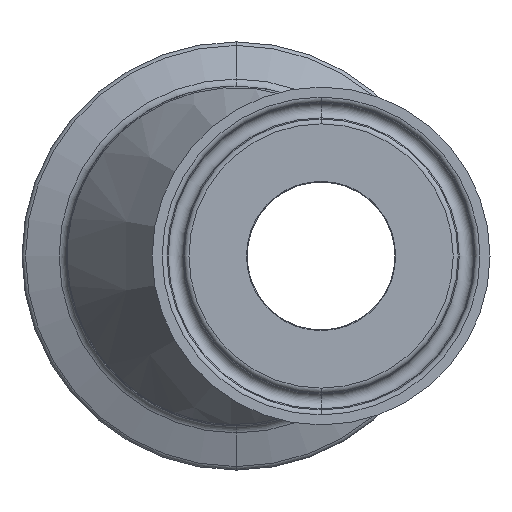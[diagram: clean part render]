
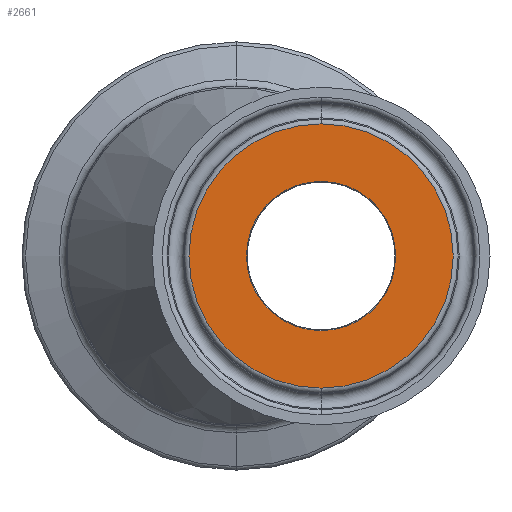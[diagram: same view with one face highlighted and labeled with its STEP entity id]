
A CAD part, left-side view. The second image highlights one B-rep face of the part: STEP entity #2661.
In plain terms, the highlighted planar face has unit normal (-1, 0, 0).
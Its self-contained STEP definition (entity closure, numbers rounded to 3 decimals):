
#75 = DIRECTION ( 'NONE',  ( -1., 0., 0. ) ) ;
#78 = DIRECTION ( 'NONE',  ( 0., 0., 1. ) ) ;
#114 = FACE_OUTER_BOUND ( 'NONE', #2436, .T. ) ;
#116 = DIRECTION ( 'NONE',  ( 0., 0., -1. ) ) ;
#219 = ORIENTED_EDGE ( 'NONE', *, *, #2246, .T. ) ;
#238 = EDGE_LOOP ( 'NONE', ( #1134, #1184 ) ) ;
#297 = CARTESIAN_POINT ( 'NONE',  ( 0., -12.701, 0. ) ) ;
#298 = AXIS2_PLACEMENT_3D ( 'NONE', #2574, #1316, #78 ) ;
#336 = EDGE_CURVE ( 'NONE', #1174, #2425, #392, .T. ) ;
#392 = CIRCLE ( 'NONE', #2019, 11.149 ) ;
#453 = CARTESIAN_POINT ( 'NONE',  ( 0., -12.701, -11.149 ) ) ;
#553 = EDGE_CURVE ( 'NONE', #2425, #1174, #1827, .T. ) ;
#739 = AXIS2_PLACEMENT_3D ( 'NONE', #1889, #2591, #2523 ) ;
#853 = VERTEX_POINT ( 'NONE', #1039 ) ;
#906 = DIRECTION ( 'NONE',  ( 1., 0., 0. ) ) ;
#1039 = CARTESIAN_POINT ( 'NONE',  ( 0., -12.701, -19.747 ) ) ;
#1105 = CARTESIAN_POINT ( 'NONE',  ( 0., -12.701, 19.747 ) ) ;
#1126 = AXIS2_PLACEMENT_3D ( 'NONE', #1313, #75, #1520 ) ;
#1134 = ORIENTED_EDGE ( 'NONE', *, *, #336, .T. ) ;
#1135 = AXIS2_PLACEMENT_3D ( 'NONE', #2622, #1352, #116 ) ;
#1174 = VERTEX_POINT ( 'NONE', #2131 ) ;
#1184 = ORIENTED_EDGE ( 'NONE', *, *, #553, .T. ) ;
#1219 = EDGE_CURVE ( 'NONE', #853, #1936, #1618, .T. ) ;
#1313 = CARTESIAN_POINT ( 'NONE',  ( 0., -12.701, 0. ) ) ;
#1316 = DIRECTION ( 'NONE',  ( -1., 0., 0. ) ) ;
#1352 = DIRECTION ( 'NONE',  ( 1., 0., 0. ) ) ;
#1362 = CIRCLE ( 'NONE', #298, 19.747 ) ;
#1520 = DIRECTION ( 'NONE',  ( 0., 0., 1. ) ) ;
#1618 = CIRCLE ( 'NONE', #1126, 19.747 ) ;
#1827 = CIRCLE ( 'NONE', #739, 11.149 ) ;
#1889 = CARTESIAN_POINT ( 'NONE',  ( 0., -12.701, 0. ) ) ;
#1936 = VERTEX_POINT ( 'NONE', #1105 ) ;
#2019 = AXIS2_PLACEMENT_3D ( 'NONE', #297, #906, #2141 ) ;
#2131 = CARTESIAN_POINT ( 'NONE',  ( 0., -12.701, 11.149 ) ) ;
#2141 = DIRECTION ( 'NONE',  ( 0., 0., -1. ) ) ;
#2230 = FACE_BOUND ( 'NONE', #238, .T. ) ;
#2246 = EDGE_CURVE ( 'NONE', #1936, #853, #1362, .T. ) ;
#2366 = ORIENTED_EDGE ( 'NONE', *, *, #1219, .T. ) ;
#2383 = PLANE ( 'NONE',  #1135 ) ;
#2425 = VERTEX_POINT ( 'NONE', #453 ) ;
#2436 = EDGE_LOOP ( 'NONE', ( #219, #2366 ) ) ;
#2523 = DIRECTION ( 'NONE',  ( 0., 0., -1. ) ) ;
#2574 = CARTESIAN_POINT ( 'NONE',  ( 0., -12.701, 0. ) ) ;
#2591 = DIRECTION ( 'NONE',  ( 1., 0., 0. ) ) ;
#2622 = CARTESIAN_POINT ( 'NONE',  ( 0., 0., 0. ) ) ;
#2661 = ADVANCED_FACE ( 'NONE', ( #2230, #114 ), #2383, .F. ) ;
